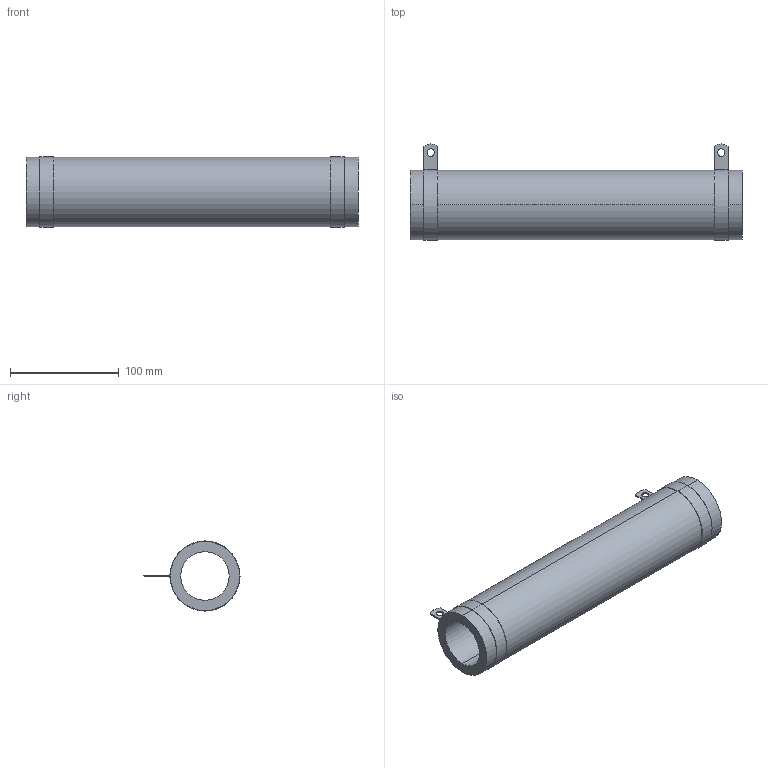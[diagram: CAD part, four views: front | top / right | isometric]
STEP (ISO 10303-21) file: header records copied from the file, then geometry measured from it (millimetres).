
FILE_DESCRIPTION (( 'STEP AP203' ), '1' );
FILE_NAME ('RBSF0750xxxxxKGB00.STEP', '2014-04-04T19:09:42', ( '' ), ( '' ), 'SwSTEP 2.0', 'SolidWorks 2012', '' );
FILE_SCHEMA (( 'CONFIG_CONTROL_DESIGN' ));
Length unit declared in the file: millimetre
Products named in the file (3): DAL013-08_DAL013-142; DAL15-182-XXX_DAL15-182-340; RBSF0750xxxxxKGB00
Assembly tree (3 placements, depth 2):
  RBSF0750xxxxxKGB00
    DAL013-08_DAL013-142
    DAL15-182-XXX_DAL15-182-340  x2
Bounding box: 304.8 x 88.22 x 64.4 mm (x, y, z)
Volume: 495089.2 mm3; surface area: 119345.4 mm2
Topology: 3 solids, 3 shells, 76 faces, 162 edges, 92 vertices
Faces by surface type: plane 46, cylinder 30
Entity records: 1432 total; most frequent: DIRECTION 215, CARTESIAN_POINT 184, ORIENTED_EDGE 174, EDGE_CURVE 87, AXIS2_PLACEMENT_3D 81, VECTOR 53, LINE 53, VERTEX_POINT 50
